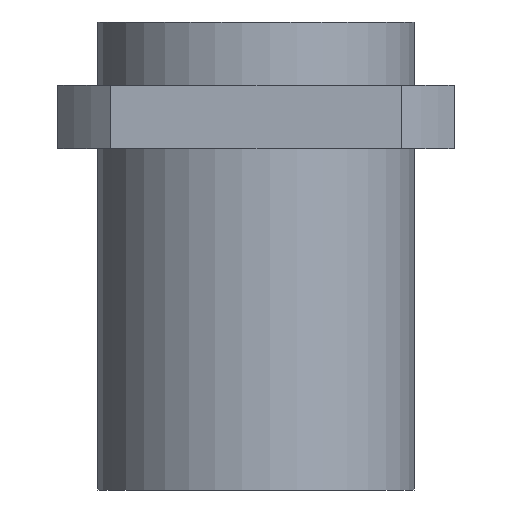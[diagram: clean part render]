
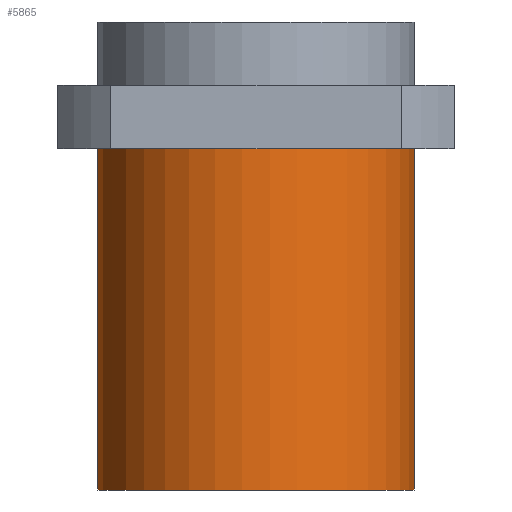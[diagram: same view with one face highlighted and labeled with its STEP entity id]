
A CAD part, front view. The second image highlights one B-rep face of the part: STEP entity #5865.
In plain terms, the highlighted cylindrical face has radius 20 mm (diameter 40 mm), a full revolution.
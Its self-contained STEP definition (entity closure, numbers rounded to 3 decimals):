
#87=CYLINDRICAL_SURFACE('',#6248,20.);
#106=CIRCLE('',#6217,20.);
#128=CIRCLE('',#6249,20.);
#561=ORIENTED_EDGE('',*,*,#2251,.T.);
#562=ORIENTED_EDGE('',*,*,#2097,.T.);
#2097=EDGE_CURVE('',#2946,#2946,#106,.F.);
#2251=EDGE_CURVE('',#3092,#3092,#128,.T.);
#2946=VERTEX_POINT('',#8621);
#3092=VERTEX_POINT('',#9328);
#4821=EDGE_LOOP('',(#561));
#4822=EDGE_LOOP('',(#562));
#5238=FACE_BOUND('',#4821,.T.);
#5239=FACE_BOUND('',#4822,.T.);
#5865=ADVANCED_FACE('',(#5238,#5239),#87,.T.);
#6217=AXIS2_PLACEMENT_3D('',#8620,#6643,#6644);
#6248=AXIS2_PLACEMENT_3D('',#9326,#6814,#6815);
#6249=AXIS2_PLACEMENT_3D('',#9327,#6816,#6817);
#6643=DIRECTION('',(0.,0.,1.));
#6644=DIRECTION('',(0.707,-0.707,0.));
#6814=DIRECTION('',(0.,0.,1.));
#6815=DIRECTION('',(0.707,-0.707,0.));
#6816=DIRECTION('',(0.,0.,1.));
#6817=DIRECTION('',(0.707,-0.707,0.));
#8620=CARTESIAN_POINT('',(0.,0.,-8.));
#8621=CARTESIAN_POINT('',(14.142,-14.142,-8.));
#9326=CARTESIAN_POINT('',(0.,0.,-51.));
#9327=CARTESIAN_POINT('',(0.,0.,-51.));
#9328=CARTESIAN_POINT('',(14.142,-14.142,-51.));
